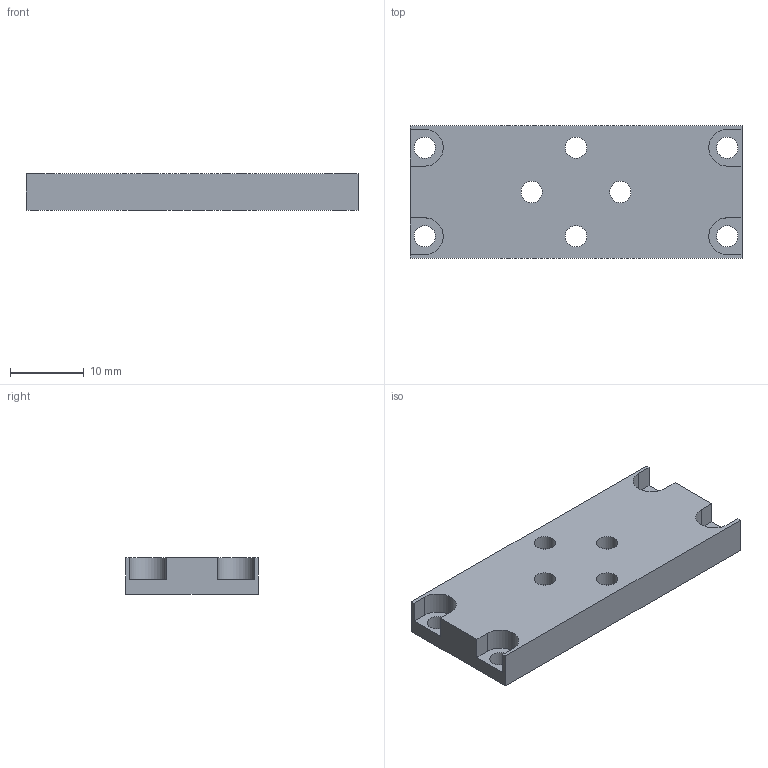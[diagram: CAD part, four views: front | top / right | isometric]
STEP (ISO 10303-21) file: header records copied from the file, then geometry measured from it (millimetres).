
FILE_DESCRIPTION(/* description */ (''),/* implementation_level */ '2;1');
FILE_NAME(/* name */ 'U:\KONSTRUKTORIAI\DOKUMENTACIJA\2\2CP\2CPMT18\2CPMT18-1\STEP\2CPMT18-1.01.stp',/* time_stamp */ '2020-06-01T14:30:46+03:00',/* author */ ('dsgn36'),/* organization */ (''),/* preprocessor_version */ 'ST-DEVELOPER v15.2',/* originating_system */ 'Autodesk Inventor 2014',/* authorisation */ '');
FILE_SCHEMA (('CONFIG_CONTROL_DESIGN'));
Length unit declared in the file: millimetre
Products named in the file (1): 2CPMT18-1.01
Bounding box: 45 x 18 x 5 mm (x, y, z)
Volume: 3470.9 mm3; surface area: 2560.8 mm2
Topology: 1 solids, 1 shells, 38 faces, 98 edges, 66 vertices
Faces by surface type: plane 22, cylinder 16
Full cylindrical faces by diameter (mm): 2.9 x8, 5 x4
Entity records: 1145 total; most frequent: DIRECTION 194, CARTESIAN_POINT 187, ORIENTED_EDGE 168, EDGE_CURVE 84, AXIS2_PLACEMENT_3D 71, EDGE_LOOP 70, VERTEX_POINT 64, LINE 52
